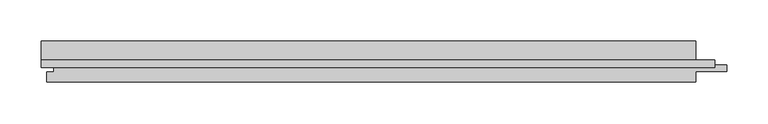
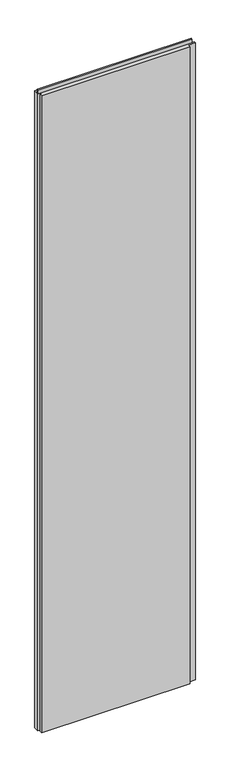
"""IFC4 building model written with IfcOpenShell, lengths in millimetres: plate geometry, Trimo_Qbiss Screen_Normal Panel-VERTICAL : HR - B."""

from ifc_helpers import new_model, si_unit, frame, origin, place, context, project, spatial, polyline, outline, extrude, source, transform, mapped, element, save


def plate_23a4fca0(model_context):
    return source(origin(), model_context, "Body", "SweptSolid", [
        extrude(outline(polyline([(445.0, 97.0), (445.0, 102.6), (466.0, 102.6), (466.0, 97.0), (445.0, 97.0)])), frame((0.0, 0.0, 12.5), z_axis=(0.0, 0.0, 1.0), x_axis=(1.0, 0.0, 0.0)), (0.0, 0.0, 1.0), 3575.0),
        extrude(outline(polyline([(-351.0, 93.9), (-351.0, 102.6), (467.0, 102.6), (467.0, 93.9), (-351.0, 93.9)])), frame((0.0, 0.0, 3590.5), z_axis=(0.0, 0.0, 1.0), x_axis=(1.0, 0.0, 0.0)), (0.0, 0.0, 1.0), 19.0),
        extrude(outline(polyline([(444.0, 97.0), (481.5, 97.0), (481.5, 89.0), (444.0, 89.0), (444.0, 76.0), (-344.0, 76.0), (-344.0, 88.0), (-335.5, 88.0), (-335.5, 98.0), (-351.0, 98.0), (-351.0, 126.0), (444.0, 126.0), (444.0, 97.0)])), frame((0.0, 0.0, 12.5), z_axis=(0.0, 0.0, 1.0), x_axis=(1.0, 0.0, 0.0)), (0.0, 0.0, 1.0), 3575.0),
    ])


if __name__ == "__main__":
    model = new_model("IFC4")
    model_context = context("Model", 3, world=origin())
    ifc_project = project(units=[si_unit("LENGTHUNIT", "METRE", prefix="MILLI")], contexts=[model_context])
    site = spatial("IfcSite", under=ifc_project)
    building = spatial("IfcBuilding", under=site)
    placement = place(None, origin())
    plate_shape = plate_23a4fca0(model_context)
    element("IfcPlate", 1, ObjectType="Trimo_Qbiss Screen_Normal Panel-VERTICAL : HR - B", at=placement, inside=building, context=model_context, shape_type="MappedRepresentation", body=[
        mapped(plate_shape, transform((0.0, 0.0, 0.0), x_axis=(1.0, 0.0, 0.0), y_axis=(0.0, 1.0, 0.0), z_axis=(0.0, 0.0, 1.0))),
    ])
    save(model, "model.ifc")
